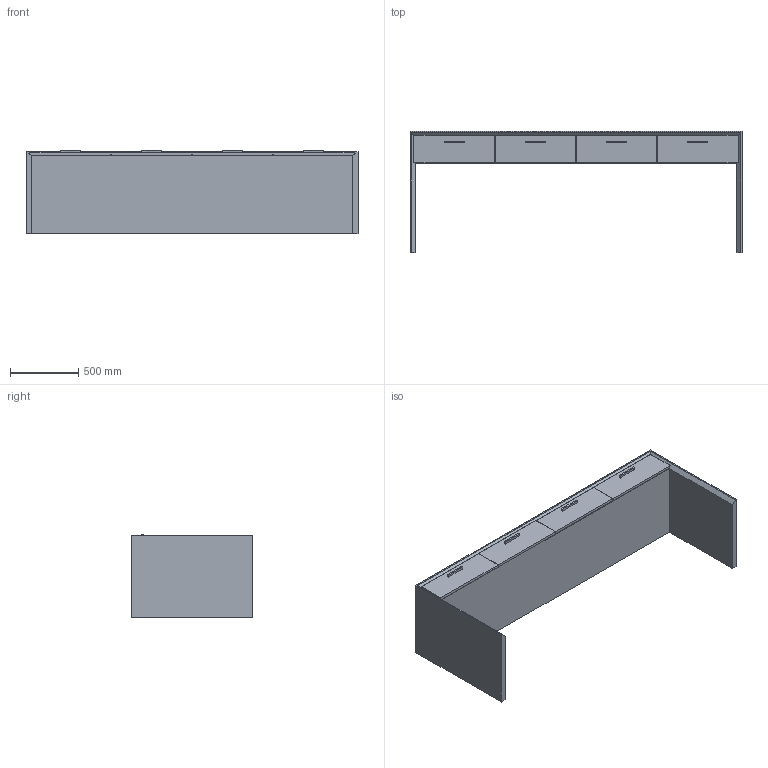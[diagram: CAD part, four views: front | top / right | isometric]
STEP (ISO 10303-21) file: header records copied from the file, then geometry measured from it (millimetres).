
FILE_DESCRIPTION(/* description */ ('','CAx-IF Rec.Pracs.---Representation and Presentation of Product Manufacturing Information (PMI)---4.0---2014-10-13'),/* implementation_level */ '2;1');
FILE_NAME(/* name */ 'AERO^CS1.stp',/* time_stamp */ '2024-12-05T16:46:29-05:00',/* author */ ('mbowman'),/* organization */ (''),/* preprocessor_version */ 'ST-DEVELOPER v19.2',/* originating_system */ 'Autodesk Inventor 2023',/* authorisation */ '');
FILE_SCHEMA (('AP242_MANAGED_MODEL_BASED_3D_ENGINEERING_MIM_LF { 1 0 10303 442 1 1 4 }'));
Length unit declared in the file: inch
Products named in the file (3): AERO^STANDARD_CONSOLE CREDENZA 35H-SOLID ASSEMBLY; H-Q-PULLNEW; AERO^STANDARD_CONSOLE CREDENZA 35H-SOLID ASSEMBLY_1
Assembly tree (5 placements, depth 2):
  AERO^STANDARD_CONSOLE CREDENZA 35H-SOLID ASSEMBLY
    H-Q-PULLNEW  x4
    AERO^STANDARD_CONSOLE CREDENZA 35H-SOLID ASSEMBLY_1
Bounding box: 2438.4 x 889 x 612.77 mm (x, y, z)
Volume: 141407281.1 mm3; surface area: 10916527.8 mm2
Topology: 16 solids, 16 shells, 124 faces, 266 edges, 174 vertices
Faces by surface type: plane 100, cone 8, cylinder 8, bspline 8
Full cylindrical faces by diameter (mm): 3.962 x8
Entity records: 3381 total; most frequent: CARTESIAN_POINT 766, DIRECTION 423, ORIENTED_EDGE 396, EDGE_CURVE 198, STYLED_ITEM 191, LINE 191, VECTOR 191, POLYLINE 132
